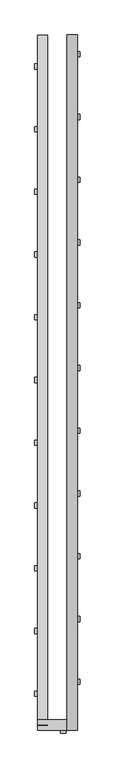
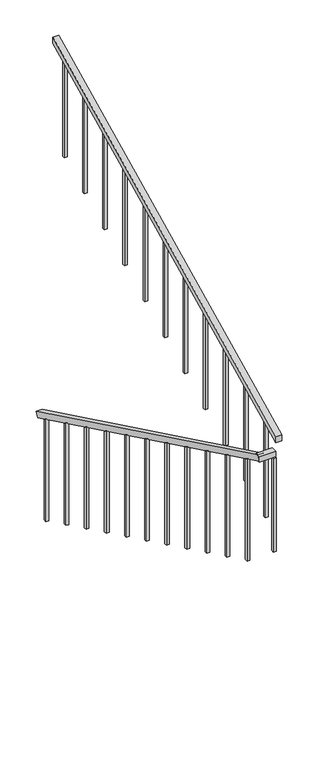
"""IFC4 building model written with IfcOpenShell, lengths in millimetres: railing geometry, ADSK_Стандартное_h 900 Поручень квадратный без направляющих."""

from ifc_helpers import new_model, si_unit, frame, origin, place, context, project, spatial, polyline, outline, extrude, source, transform, mapped, element, save


def railing_066ca7b3(model_context):
    return source(origin(), model_context, "Body", "SweptSolid", [
        extrude(outline(polyline([(0.0, -50.0), (0.0, 0.0), (3669.2438859, 0.0), (3669.2438859, -50.0), (0.0, -50.0)])), frame((-1758.1240021, -5953.4374067, 1000.8649406), z_axis=(0.0, 0.4371927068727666, 0.8993678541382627), x_axis=(0.0, -0.8993678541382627, 0.4371927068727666)), (0.0, 0.0, 1.0), 50.0),
        extrude(outline(polyline([(-1808.1240021, -9256.9777713), (-1808.1240021, -9206.9777713), (-1666.5240021, -9206.9777713), (-1666.5240021, -9256.9777713), (-1808.1240021, -9256.9777713)])), frame((0.0, 0.0, 2600.0), z_axis=(0.0, 0.0, 1.0), x_axis=(1.0, 0.0, 0.0)), (0.0, 0.0, 1.0), 50.0),
        extrude(outline(polyline([(-9256.9777713, 2727.8915068), (-9256.9777713, 2783.4861111), (-5931.5777713, 4400.0), (-5931.5777713, 4344.4053957), (-9256.9777713, 2727.8915068)])), frame((-1666.5240021, 0.0, 0.0), z_axis=(1.0, 0.0, 0.0), x_axis=(0.0, 1.0, 0.0)), (0.0, 0.0, 1.0), 50.0),
        extrude(outline(polyline([(-6036.4777713, 4299.0069444), (-6011.4777713, 4311.1597222), (-6011.4777713, 3354.1666667), (-6036.4777713, 3354.1666667), (-6036.4777713, 4299.0069444)])), frame((-1629.0240021, 0.0, 0.0), z_axis=(1.0, 0.0, 0.0), x_axis=(0.0, 1.0, 0.0)), (0.0, 0.0, 1.0), 25.0),
        extrude(outline(polyline([(-6336.4777713, 4153.1736111), (-6311.4777713, 4165.3263889), (-6311.4777713, 3208.3333333), (-6336.4777713, 3208.3333333), (-6336.4777713, 4153.1736111)])), frame((-1629.0240021, 0.0, 0.0), z_axis=(1.0, 0.0, 0.0), x_axis=(0.0, 1.0, 0.0)), (0.0, 0.0, 1.0), 25.0),
        extrude(outline(polyline([(-6636.4777713, 4007.3402778), (-6611.4777713, 4019.4930556), (-6611.4777713, 3062.5), (-6636.4777713, 3062.5), (-6636.4777713, 4007.3402778)])), frame((-1629.0240021, 0.0, 0.0), z_axis=(1.0, 0.0, 0.0), x_axis=(0.0, 1.0, 0.0)), (0.0, 0.0, 1.0), 25.0),
        extrude(outline(polyline([(-6936.4777713, 3861.5069444), (-6911.4777713, 3873.6597222), (-6911.4777713, 2916.6666667), (-6936.4777713, 2916.6666667), (-6936.4777713, 3861.5069444)])), frame((-1629.0240021, 0.0, 0.0), z_axis=(1.0, 0.0, 0.0), x_axis=(0.0, 1.0, 0.0)), (0.0, 0.0, 1.0), 25.0),
        extrude(outline(polyline([(-7236.4777713, 3715.6736111), (-7211.4777713, 3727.8263889), (-7211.4777713, 2770.8333333), (-7236.4777713, 2770.8333333), (-7236.4777713, 3715.6736111)])), frame((-1629.0240021, 0.0, 0.0), z_axis=(1.0, 0.0, 0.0), x_axis=(0.0, 1.0, 0.0)), (0.0, 0.0, 1.0), 25.0),
        extrude(outline(polyline([(-7536.4777713, 3569.8402778), (-7511.4777713, 3581.9930556), (-7511.4777713, 2625.0), (-7536.4777713, 2625.0), (-7536.4777713, 3569.8402778)])), frame((-1629.0240021, 0.0, 0.0), z_axis=(1.0, 0.0, 0.0), x_axis=(0.0, 1.0, 0.0)), (0.0, 0.0, 1.0), 25.0),
        extrude(outline(polyline([(-7836.4777713, 3424.0069444), (-7811.4777713, 3436.1597222), (-7811.4777713, 2479.1666667), (-7836.4777713, 2479.1666667), (-7836.4777713, 3424.0069444)])), frame((-1629.0240021, 0.0, 0.0), z_axis=(1.0, 0.0, 0.0), x_axis=(0.0, 1.0, 0.0)), (0.0, 0.0, 1.0), 25.0),
        extrude(outline(polyline([(-8136.4777713, 3278.1736111), (-8111.4777713, 3290.3263889), (-8111.4777713, 2333.3333333), (-8136.4777713, 2333.3333333), (-8136.4777713, 3278.1736111)])), frame((-1629.0240021, 0.0, 0.0), z_axis=(1.0, 0.0, 0.0), x_axis=(0.0, 1.0, 0.0)), (0.0, 0.0, 1.0), 25.0),
        extrude(outline(polyline([(-8436.4777713, 3132.3402778), (-8411.4777713, 3144.4930556), (-8411.4777713, 2187.5), (-8436.4777713, 2187.5), (-8436.4777713, 3132.3402778)])), frame((-1629.0240021, 0.0, 0.0), z_axis=(1.0, 0.0, 0.0), x_axis=(0.0, 1.0, 0.0)), (0.0, 0.0, 1.0), 25.0),
        extrude(outline(polyline([(-8736.4777713, 2986.5069444), (-8711.4777713, 2998.6597222), (-8711.4777713, 2041.6666667), (-8736.4777713, 2041.6666667), (-8736.4777713, 2986.5069444)])), frame((-1629.0240021, 0.0, 0.0), z_axis=(1.0, 0.0, 0.0), x_axis=(0.0, 1.0, 0.0)), (0.0, 0.0, 1.0), 25.0),
        extrude(outline(polyline([(-9036.4777713, 2840.6736111), (-9011.4777713, 2852.8263889), (-9011.4777713, 1895.8333333), (-9036.4777713, 1895.8333333), (-9036.4777713, 2840.6736111)])), frame((-1629.0240021, 0.0, 0.0), z_axis=(1.0, 0.0, 0.0), x_axis=(0.0, 1.0, 0.0)), (0.0, 0.0, 1.0), 25.0),
        extrude(outline(polyline([(-1696.0240021, -9244.4777713), (-1671.0240021, -9244.4777713), (-1671.0240021, -9269.4777713), (-1696.0240021, -9269.4777713), (-1696.0240021, -9244.4777713)])), frame((0.0, 0.0, 1750.0), z_axis=(0.0, 0.0, 1.0), x_axis=(1.0, 0.0, 0.0)), (0.0, 0.0, 1.0), 850.0),
        extrude(outline(polyline([(-9069.0777713, 1604.1666667), (-9094.0777713, 1604.1666667), (-9094.0777713, 2533.1597222), (-9069.0777713, 2521.0069444), (-9069.0777713, 1604.1666667)])), frame((-1820.6240021, 0.0, 0.0), z_axis=(1.0, 0.0, 0.0), x_axis=(0.0, 1.0, 0.0)), (0.0, 0.0, 1.0), 25.0),
        extrude(outline(polyline([(-8769.0777713, 1458.3333333), (-8794.0777713, 1458.3333333), (-8794.0777713, 2387.3263889), (-8769.0777713, 2375.1736111), (-8769.0777713, 1458.3333333)])), frame((-1820.6240021, 0.0, 0.0), z_axis=(1.0, 0.0, 0.0), x_axis=(0.0, 1.0, 0.0)), (0.0, 0.0, 1.0), 25.0),
        extrude(outline(polyline([(-8469.0777713, 1312.5), (-8494.0777713, 1312.5), (-8494.0777713, 2241.4930556), (-8469.0777713, 2229.3402778), (-8469.0777713, 1312.5)])), frame((-1820.6240021, 0.0, 0.0), z_axis=(1.0, 0.0, 0.0), x_axis=(0.0, 1.0, 0.0)), (0.0, 0.0, 1.0), 25.0),
        extrude(outline(polyline([(-8169.0777713, 1166.6666667), (-8194.0777713, 1166.6666667), (-8194.0777713, 2095.6597222), (-8169.0777713, 2083.5069444), (-8169.0777713, 1166.6666667)])), frame((-1820.6240021, 0.0, 0.0), z_axis=(1.0, 0.0, 0.0), x_axis=(0.0, 1.0, 0.0)), (0.0, 0.0, 1.0), 25.0),
        extrude(outline(polyline([(-7869.0777713, 1020.8333333), (-7894.0777713, 1020.8333333), (-7894.0777713, 1949.8263889), (-7869.0777713, 1937.6736111), (-7869.0777713, 1020.8333333)])), frame((-1820.6240021, 0.0, 0.0), z_axis=(1.0, 0.0, 0.0), x_axis=(0.0, 1.0, 0.0)), (0.0, 0.0, 1.0), 25.0),
        extrude(outline(polyline([(-7569.0777713, 875.0), (-7594.0777713, 875.0), (-7594.0777713, 1803.9930556), (-7569.0777713, 1791.8402778), (-7569.0777713, 875.0)])), frame((-1820.6240021, 0.0, 0.0), z_axis=(1.0, 0.0, 0.0), x_axis=(0.0, 1.0, 0.0)), (0.0, 0.0, 1.0), 25.0),
        extrude(outline(polyline([(-7269.0777713, 729.1666667), (-7294.0777713, 729.1666667), (-7294.0777713, 1658.1597222), (-7269.0777713, 1646.0069444), (-7269.0777713, 729.1666667)])), frame((-1820.6240021, 0.0, 0.0), z_axis=(1.0, 0.0, 0.0), x_axis=(0.0, 1.0, 0.0)), (0.0, 0.0, 1.0), 25.0),
        extrude(outline(polyline([(-6969.0777713, 583.3333333), (-6994.0777713, 583.3333333), (-6994.0777713, 1512.3263889), (-6969.0777713, 1500.1736111), (-6969.0777713, 583.3333333)])), frame((-1820.6240021, 0.0, 0.0), z_axis=(1.0, 0.0, 0.0), x_axis=(0.0, 1.0, 0.0)), (0.0, 0.0, 1.0), 25.0),
        extrude(outline(polyline([(-6669.0777713, 437.5), (-6694.0777713, 437.5), (-6694.0777713, 1366.4930556), (-6669.0777713, 1354.3402778), (-6669.0777713, 437.5)])), frame((-1820.6240021, 0.0, 0.0), z_axis=(1.0, 0.0, 0.0), x_axis=(0.0, 1.0, 0.0)), (0.0, 0.0, 1.0), 25.0),
        extrude(outline(polyline([(-6369.0777713, 291.6666667), (-6394.0777713, 291.6666667), (-6394.0777713, 1220.6597222), (-6369.0777713, 1208.5069444), (-6369.0777713, 291.6666667)])), frame((-1820.6240021, 0.0, 0.0), z_axis=(1.0, 0.0, 0.0), x_axis=(0.0, 1.0, 0.0)), (0.0, 0.0, 1.0), 25.0),
        extrude(outline(polyline([(-6069.0777713, 145.8333333), (-6094.0777713, 145.8333333), (-6094.0777713, 1074.8263889), (-6069.0777713, 1062.6736111), (-6069.0777713, 145.8333333)])), frame((-1820.6240021, 0.0, 0.0), z_axis=(1.0, 0.0, 0.0), x_axis=(0.0, 1.0, 0.0)), (0.0, 0.0, 1.0), 25.0),
    ])


if __name__ == "__main__":
    model = new_model("IFC4")
    model_context = context("Model", 3, world=origin())
    ifc_project = project(units=[si_unit("LENGTHUNIT", "METRE", prefix="MILLI")], contexts=[model_context])
    site = spatial("IfcSite", under=ifc_project)
    building = spatial("IfcBuilding", under=site)
    placement = place(None, origin())
    railing_shape = railing_066ca7b3(model_context)
    element("IfcRailing", 1, ObjectType="ADSK_Стандартное_h 900 Поручень квадратный без направляющих", at=placement, inside=building, context=model_context, shape_type="MappedRepresentation", body=[
        mapped(railing_shape, transform((0.0, 0.0, 0.0), x_axis=(1.0, 0.0, 0.0), y_axis=(0.0, 1.0, 0.0), z_axis=(0.0, 0.0, 1.0))),
    ])
    save(model, "model.ifc")
